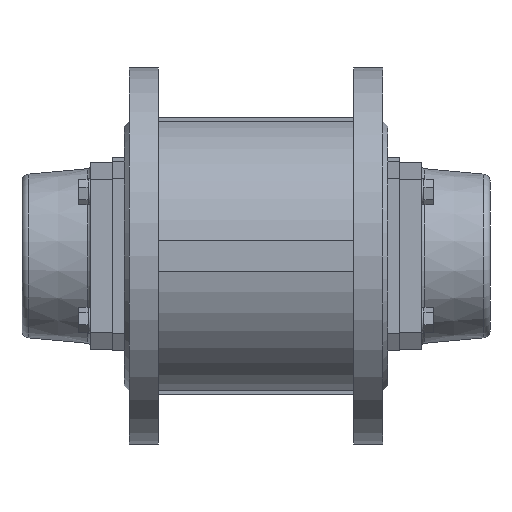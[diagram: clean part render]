
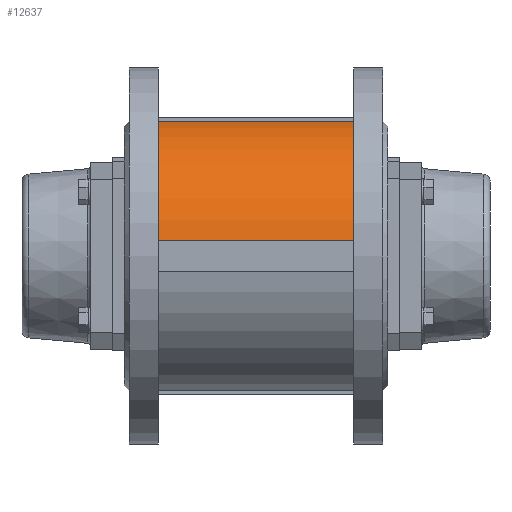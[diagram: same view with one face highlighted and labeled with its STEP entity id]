
A CAD part, front view. The second image highlights one B-rep face of the part: STEP entity #12637.
In plain terms, the highlighted cylindrical face has radius 80 mm (diameter 160 mm), a partial arc.
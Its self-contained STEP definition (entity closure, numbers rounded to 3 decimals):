
#326 = CARTESIAN_POINT ( 'NONE',  ( -57., 0., 0. ) ) ;
#327 = DIRECTION ( 'NONE',  ( 1., 0., 0. ) ) ;
#328 = DIRECTION ( 'NONE',  ( 0., 0., -1. ) ) ;
#968 = CARTESIAN_POINT ( 'NONE',  ( 57., -79.492, 9. ) ) ;
#974 = LINE ( 'NONE', #968, #9282 ) ;
#977 = LINE ( 'NONE', #982, #9281 ) ;
#978 = CARTESIAN_POINT ( 'NONE',  ( 57., 0., 0. ) ) ;
#979 = DIRECTION ( 'NONE',  ( 1., 0., 0. ) ) ;
#980 = DIRECTION ( 'NONE',  ( 0., 0., -1. ) ) ;
#981 = DIRECTION ( 'NONE',  ( -1., 0., 0. ) ) ;
#982 = CARTESIAN_POINT ( 'NONE',  ( 57., -16., 78.384 ) ) ;
#984 = DIRECTION ( 'NONE',  ( -1., 0., 0. ) ) ;
#2006 = CARTESIAN_POINT ( 'NONE',  ( 57., -16., 78.384 ) ) ;
#3033 = VERTEX_POINT ( 'NONE', #12224 ) ;
#3146 = VERTEX_POINT ( 'NONE', #12299 ) ;
#3176 = VERTEX_POINT ( 'NONE', #5976 ) ;
#5976 = CARTESIAN_POINT ( 'NONE',  ( -57., -16., 78.384 ) ) ;
#9279 = CIRCLE ( 'NONE', #9283, 80. ) ;
#9281 = VECTOR ( 'NONE', #984, 1000. ) ;
#9282 = VECTOR ( 'NONE', #981, 1000. ) ;
#9283 = AXIS2_PLACEMENT_3D ( 'NONE', #978, #979, #980 ) ;
#9431 = CIRCLE ( 'NONE', #9433, 80. ) ;
#9433 = AXIS2_PLACEMENT_3D ( 'NONE', #326, #327, #328 ) ;
#9690 = AXIS2_PLACEMENT_3D ( 'NONE', #16633, #16629, #16635 ) ;
#11916 = ORIENTED_EDGE ( 'NONE', *, *, #12360, .F. ) ;
#11917 = ORIENTED_EDGE ( 'NONE', *, *, #12361, .F. ) ;
#11918 = ORIENTED_EDGE ( 'NONE', *, *, #12473, .T. ) ;
#11919 = ORIENTED_EDGE ( 'NONE', *, *, #12362, .T. ) ;
#12224 = CARTESIAN_POINT ( 'NONE',  ( 57., -79.492, 9. ) ) ;
#12299 = CARTESIAN_POINT ( 'NONE',  ( -57., -79.492, 9. ) ) ;
#12360 = EDGE_CURVE ( 'NONE', #17624, #3033, #9279, .T. ) ;
#12361 = EDGE_CURVE ( 'NONE', #3033, #3146, #974, .T. ) ;
#12362 = EDGE_CURVE ( 'NONE', #17624, #3176, #977, .T. ) ;
#12473 = EDGE_CURVE ( 'NONE', #3176, #3146, #9431, .T. ) ;
#12637 = ADVANCED_FACE ( 'NONE', ( #16632 ), #16631, .T. ) ;
#16112 = EDGE_LOOP ( 'NONE', ( #11919, #11918, #11917, #11916 ) ) ;
#16629 = DIRECTION ( 'NONE',  ( -1., 0., 0. ) ) ;
#16631 = CYLINDRICAL_SURFACE ( 'NONE', #9690, 80. ) ;
#16632 = FACE_OUTER_BOUND ( 'NONE', #16112, .T. ) ;
#16633 = CARTESIAN_POINT ( 'NONE',  ( 57., 0., 0. ) ) ;
#16635 = DIRECTION ( 'NONE',  ( 0., 0., 1. ) ) ;
#17624 = VERTEX_POINT ( 'NONE', #2006 ) ;
